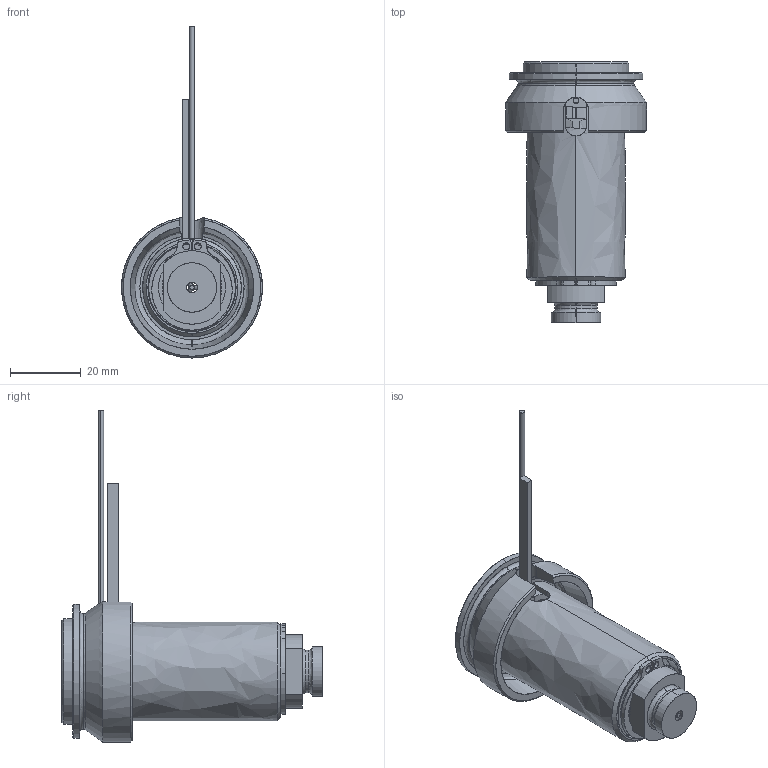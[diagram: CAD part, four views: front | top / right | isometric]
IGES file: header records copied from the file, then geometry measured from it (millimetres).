
Start section: SolidWorks IGES file using analytic representation for surfaces
Global section: file name: C:\Documents and Settings\ws-20\Desktop\TEM\UGEP4101-M-A-0 [Øf-1.31 P-0 ØC-10].IGS; native system: SolidWorks 2012; preprocessor: SolidWorks 2012; author: ws-20; date: 120426.085620; units: millimetre
Bounding box: 40 x 74.25 x 94.15 mm (x, y, z)
Surface area: 24282.5 mm2 (no closed solid volume)
Topology: 0 solids, 0 shells, 116 faces, 1982 edges, 1982 vertices
Faces by surface type: revolution 66, bspline 50
